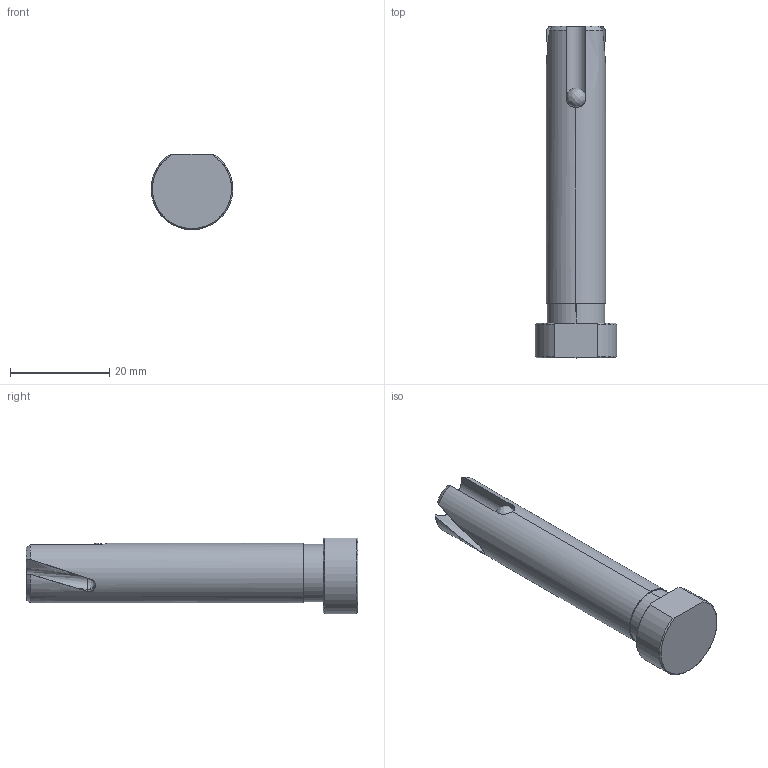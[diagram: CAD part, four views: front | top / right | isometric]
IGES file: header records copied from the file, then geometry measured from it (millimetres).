
Start section: SolidWorks IGES file using analytic representation for surfaces
Global section: file name: G:\Dropbox (Almo)\XPS 8700\Documents\Almo\SolidWorks Files\New Products (2018)\EGCP\Finished Parts\IGES\P12.60.2-120.IGS; native system: SolidWorks 2014; preprocessor: SolidWorks 2014; author: Victor; date: 180806.135937; units: millimetre
Bounding box: 16.5 x 67 x 15.25 mm (x, y, z)
Surface area: 3339.1 mm2 (no closed solid volume)
Topology: 0 solids, 0 shells, 35 faces, 518 edges, 516 vertices
Faces by surface type: bspline 19, revolution 16
